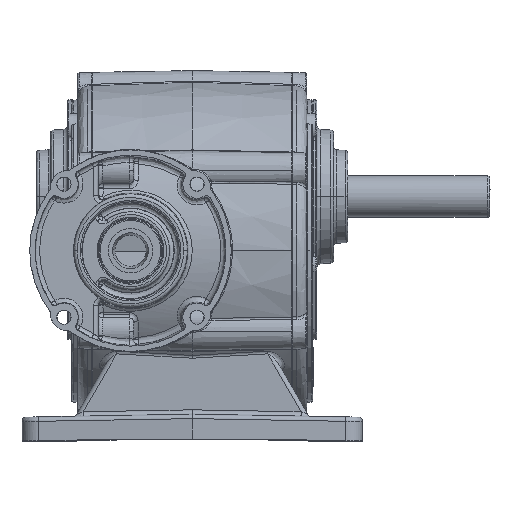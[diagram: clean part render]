
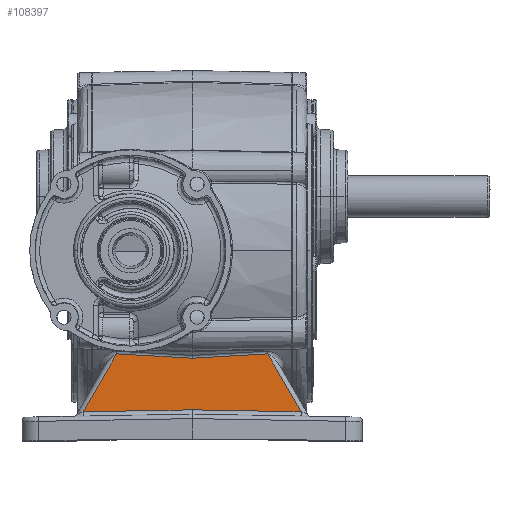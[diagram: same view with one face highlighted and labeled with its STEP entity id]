
A CAD part, top view. The second image highlights one B-rep face of the part: STEP entity #108397.
In plain terms, the highlighted planar face has unit normal (0, 0, 1).
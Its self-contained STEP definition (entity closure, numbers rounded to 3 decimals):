
#1450 = CARTESIAN_POINT ( 'NONE',  ( 50.724, 0., 204.203 ) ) ;
#24120 = CARTESIAN_POINT ( 'NONE',  ( 4.082, 30.691, 204.203 ) ) ;
#30540 = LINE ( 'NONE', #359590, #191596 ) ;
#33969 = CARTESIAN_POINT ( 'NONE',  ( 2.598, 10.771, 204.203 ) ) ;
#40987 = CARTESIAN_POINT ( 'NONE',  ( -4.952, 31.215, 204.203 ) ) ;
#53670 = CARTESIAN_POINT ( 'NONE',  ( 40.216, 30.691, 204.203 ) ) ;
#70650 = CARTESIAN_POINT ( 'NONE',  ( 61.249, 10.43, 204.203 ) ) ;
#73720 = AXIS2_PLACEMENT_3D ( 'NONE', #1450, #326506, #165139 ) ;
#84080 = CARTESIAN_POINT ( 'NONE',  ( 22.149, 29.662, 204.203 ) ) ;
#92197 = CARTESIAN_POINT ( 'NONE',  ( 49.249, 31.215, 204.203 ) ) ;
#98261 = B_SPLINE_CURVE_WITH_KNOTS ( 'NONE', 3,
 ( #406591, #24120, #281448, #145534 ),
 .UNSPECIFIED., .F., .F.,
 ( 4, 4 ),
 ( 0., 1. ),
 .UNSPECIFIED. ) ;
#108397 = ADVANCED_FACE ( 'NONE', ( #148402 ), #316076, .T. ) ;
#117135 = CARTESIAN_POINT ( 'NONE',  ( -4.952, 31.215, 204.203 ) ) ;
#119811 = VERTEX_POINT ( 'NONE', #92197 ) ;
#128037 = EDGE_CURVE ( 'NONE', #231886, #406724, #98261, .T. ) ;
#129576 = VERTEX_POINT ( 'NONE', #212986 ) ;
#141027 = CARTESIAN_POINT ( 'NONE',  ( 22.149, 29.662, 204.203 ) ) ;
#145368 = EDGE_LOOP ( 'NONE', ( #336184, #168127, #323716, #231942, #360746, #168825 ) ) ;
#145534 = CARTESIAN_POINT ( 'NONE',  ( 22.149, 29.662, 204.203 ) ) ;
#148402 = FACE_OUTER_BOUND ( 'NONE', #145368, .T. ) ;
#162277 = LINE ( 'NONE', #40987, #168461 ) ;
#163653 = DIRECTION ( 'NONE',  ( -1., -0.017, 0. ) ) ;
#165139 = DIRECTION ( 'NONE',  ( 1., 0., 0. ) ) ;
#168127 = ORIENTED_EDGE ( 'NONE', *, *, #399925, .F. ) ;
#168461 = VECTOR ( 'NONE', #234395, 1000. ) ;
#168825 = ORIENTED_EDGE ( 'NONE', *, *, #128037, .F. ) ;
#173459 = LINE ( 'NONE', #406861, #358164 ) ;
#191596 = VECTOR ( 'NONE', #289888, 1000. ) ;
#202967 = VECTOR ( 'NONE', #163653, 1000. ) ;
#207256 = EDGE_CURVE ( 'NONE', #231886, #129576, #162277, .T. ) ;
#212986 = CARTESIAN_POINT ( 'NONE',  ( -16.952, 10.43, 204.203 ) ) ;
#215208 = CARTESIAN_POINT ( 'NONE',  ( 31.183, 30.173, 204.203 ) ) ;
#225311 = LINE ( 'NONE', #33969, #202967 ) ;
#231886 = VERTEX_POINT ( 'NONE', #117135 ) ;
#231942 = ORIENTED_EDGE ( 'NONE', *, *, #344221, .T. ) ;
#234395 = DIRECTION ( 'NONE',  ( -0.5, -0.866, 0. ) ) ;
#242267 = EDGE_CURVE ( 'NONE', #372576, #360869, #30540, .T. ) ;
#268718 = CARTESIAN_POINT ( 'NONE',  ( 22.149, 11.113, 204.203 ) ) ;
#271268 = DIRECTION ( 'NONE',  ( -0.5, 0.866, 0. ) ) ;
#281448 = CARTESIAN_POINT ( 'NONE',  ( 13.115, 30.173, 204.203 ) ) ;
#289888 = DIRECTION ( 'NONE',  ( -1., 0.017, 0. ) ) ;
#290921 = B_SPLINE_CURVE_WITH_KNOTS ( 'NONE', 3,
 ( #141027, #215208, #53670, #404207 ),
 .UNSPECIFIED., .F., .F.,
 ( 4, 4 ),
 ( 0., 1. ),
 .UNSPECIFIED. ) ;
#300532 = EDGE_CURVE ( 'NONE', #406724, #119811, #290921, .T. ) ;
#316076 = PLANE ( 'NONE',  #73720 ) ;
#323716 = ORIENTED_EDGE ( 'NONE', *, *, #242267, .F. ) ;
#326506 = DIRECTION ( 'NONE',  ( 0., 0., 1. ) ) ;
#336184 = ORIENTED_EDGE ( 'NONE', *, *, #207256, .T. ) ;
#344221 = EDGE_CURVE ( 'NONE', #372576, #119811, #173459, .T. ) ;
#358164 = VECTOR ( 'NONE', #271268, 1000. ) ;
#359590 = CARTESIAN_POINT ( 'NONE',  ( 41.699, 10.771, 204.203 ) ) ;
#360746 = ORIENTED_EDGE ( 'NONE', *, *, #300532, .F. ) ;
#360869 = VERTEX_POINT ( 'NONE', #268718 ) ;
#372576 = VERTEX_POINT ( 'NONE', #70650 ) ;
#399925 = EDGE_CURVE ( 'NONE', #360869, #129576, #225311, .T. ) ;
#404207 = CARTESIAN_POINT ( 'NONE',  ( 49.249, 31.215, 204.203 ) ) ;
#406591 = CARTESIAN_POINT ( 'NONE',  ( -4.952, 31.215, 204.203 ) ) ;
#406724 = VERTEX_POINT ( 'NONE', #84080 ) ;
#406861 = CARTESIAN_POINT ( 'NONE',  ( 61.249, 10.43, 204.203 ) ) ;
